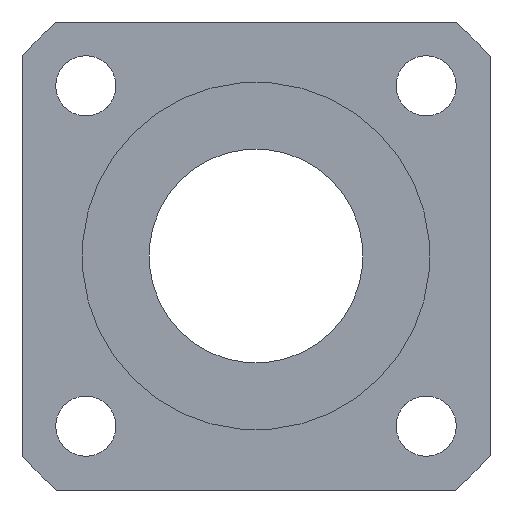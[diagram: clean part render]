
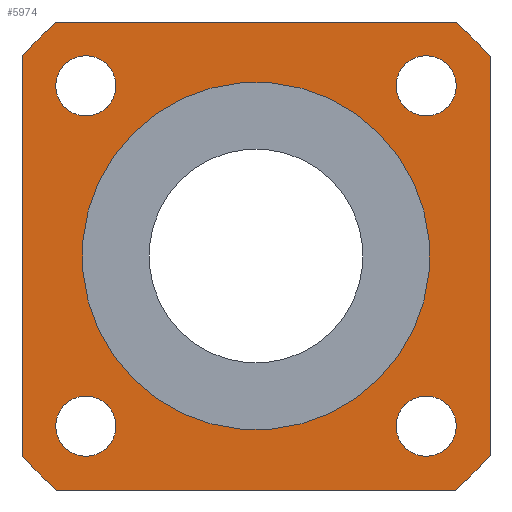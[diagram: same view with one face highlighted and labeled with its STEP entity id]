
A CAD part, left-side view. The second image highlights one B-rep face of the part: STEP entity #5974.
In plain terms, the highlighted planar face has unit normal (-1, 0, 0).
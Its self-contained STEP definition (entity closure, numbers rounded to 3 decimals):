
#108=CIRCLE('',#6337,23.);
#109=CIRCLE('',#6339,23.);
#110=CIRCLE('',#6341,23.);
#120=CIRCLE('',#6356,13.);
#122=CIRCLE('',#6361,23.);
#123=CIRCLE('',#6362,2.25);
#124=CIRCLE('',#6363,2.25);
#125=CIRCLE('',#6364,2.25);
#126=CIRCLE('',#6365,2.25);
#545=ORIENTED_EDGE('',*,*,#2267,.T.);
#546=ORIENTED_EDGE('',*,*,#2250,.F.);
#547=ORIENTED_EDGE('',*,*,#2268,.T.);
#548=ORIENTED_EDGE('',*,*,#2253,.F.);
#549=ORIENTED_EDGE('',*,*,#2269,.T.);
#550=ORIENTED_EDGE('',*,*,#2270,.F.);
#551=ORIENTED_EDGE('',*,*,#2271,.T.);
#552=ORIENTED_EDGE('',*,*,#2248,.F.);
#553=ORIENTED_EDGE('',*,*,#2272,.T.);
#554=ORIENTED_EDGE('',*,*,#2273,.T.);
#555=ORIENTED_EDGE('',*,*,#2274,.T.);
#556=ORIENTED_EDGE('',*,*,#2275,.T.);
#557=ORIENTED_EDGE('',*,*,#2265,.T.);
#2248=EDGE_CURVE('',#3111,#3112,#108,.T.);
#2250=EDGE_CURVE('',#3113,#3114,#109,.T.);
#2253=EDGE_CURVE('',#3115,#3116,#110,.T.);
#2265=EDGE_CURVE('',#3126,#3126,#120,.T.);
#2267=EDGE_CURVE('',#3111,#3114,#3641,.T.);
#2268=EDGE_CURVE('',#3113,#3116,#3642,.T.);
#2269=EDGE_CURVE('',#3115,#3128,#3643,.T.);
#2270=EDGE_CURVE('',#3129,#3128,#122,.T.);
#2271=EDGE_CURVE('',#3129,#3112,#3644,.T.);
#2272=EDGE_CURVE('',#3130,#3130,#123,.T.);
#2273=EDGE_CURVE('',#3131,#3131,#124,.T.);
#2274=EDGE_CURVE('',#3132,#3132,#125,.T.);
#2275=EDGE_CURVE('',#3133,#3133,#126,.T.);
#3111=VERTEX_POINT('',#9382);
#3112=VERTEX_POINT('',#9384);
#3113=VERTEX_POINT('',#9388);
#3114=VERTEX_POINT('',#9389);
#3115=VERTEX_POINT('',#9394);
#3116=VERTEX_POINT('',#9395);
#3126=VERTEX_POINT('',#9422);
#3128=VERTEX_POINT('',#9431);
#3129=VERTEX_POINT('',#9433);
#3130=VERTEX_POINT('',#9436);
#3131=VERTEX_POINT('',#9438);
#3132=VERTEX_POINT('',#9440);
#3133=VERTEX_POINT('',#9442);
#3641=LINE('',#9428,#4353);
#3642=LINE('',#9429,#4354);
#3643=LINE('',#9430,#4355);
#3644=LINE('',#9434,#4356);
#4353=VECTOR('',#6940,1000.);
#4354=VECTOR('',#6941,1000.);
#4355=VECTOR('',#6942,1000.);
#4356=VECTOR('',#6945,1000.);
#4910=EDGE_LOOP('',(#545,#546,#547,#548,#549,#550,#551,#552));
#4911=EDGE_LOOP('',(#553));
#4912=EDGE_LOOP('',(#554));
#4913=EDGE_LOOP('',(#555));
#4914=EDGE_LOOP('',(#556));
#4915=EDGE_LOOP('',(#557));
#5332=FACE_BOUND('',#4910,.T.);
#5333=FACE_BOUND('',#4911,.T.);
#5334=FACE_BOUND('',#4912,.T.);
#5335=FACE_BOUND('',#4913,.T.);
#5336=FACE_BOUND('',#4914,.T.);
#5337=FACE_BOUND('',#4915,.T.);
#5698=PLANE('',#6360);
#5974=ADVANCED_FACE('',(#5332,#5333,#5334,#5335,#5336,#5337),#5698,.F.);
#6337=AXIS2_PLACEMENT_3D('',#9383,#6887,#6888);
#6339=AXIS2_PLACEMENT_3D('',#9387,#6892,#6893);
#6341=AXIS2_PLACEMENT_3D('',#9393,#6898,#6899);
#6356=AXIS2_PLACEMENT_3D('',#9421,#6930,#6931);
#6360=AXIS2_PLACEMENT_3D('',#9427,#6938,#6939);
#6361=AXIS2_PLACEMENT_3D('',#9432,#6943,#6944);
#6362=AXIS2_PLACEMENT_3D('',#9435,#6946,#6947);
#6363=AXIS2_PLACEMENT_3D('',#9437,#6948,#6949);
#6364=AXIS2_PLACEMENT_3D('',#9439,#6950,#6951);
#6365=AXIS2_PLACEMENT_3D('',#9441,#6952,#6953);
#6887=DIRECTION('',(1.,0.,0.));
#6888=DIRECTION('',(0.,0.707,-0.707));
#6892=DIRECTION('',(1.,0.,0.));
#6893=DIRECTION('',(0.,0.707,-0.707));
#6898=DIRECTION('',(1.,0.,0.));
#6899=DIRECTION('',(0.,0.707,-0.707));
#6930=DIRECTION('',(1.,0.,0.));
#6931=DIRECTION('',(0.,0.707,-0.707));
#6938=DIRECTION('',(1.,0.,0.));
#6939=DIRECTION('',(0.,0.707,-0.707));
#6940=DIRECTION('',(0.,1.,0.));
#6941=DIRECTION('',(0.,0.,-1.));
#6942=DIRECTION('',(0.,-1.,0.));
#6943=DIRECTION('',(1.,0.,0.));
#6944=DIRECTION('',(0.,0.707,-0.707));
#6945=DIRECTION('',(0.,0.,1.));
#6946=DIRECTION('',(1.,0.,0.));
#6947=DIRECTION('',(0.,0.707,-0.707));
#6948=DIRECTION('',(1.,0.,0.));
#6949=DIRECTION('',(0.,0.707,-0.707));
#6950=DIRECTION('',(1.,0.,0.));
#6951=DIRECTION('',(0.,0.707,-0.707));
#6952=DIRECTION('',(1.,0.,0.));
#6953=DIRECTION('',(0.,0.707,-0.707));
#9382=CARTESIAN_POINT('',(28.,-14.925,17.5));
#9383=CARTESIAN_POINT('',(28.,0.,0.));
#9384=CARTESIAN_POINT('',(28.,-17.5,14.925));
#9387=CARTESIAN_POINT('',(28.,0.,0.));
#9388=CARTESIAN_POINT('',(28.,17.5,14.925));
#9389=CARTESIAN_POINT('',(28.,14.925,17.5));
#9393=CARTESIAN_POINT('',(28.,0.,0.));
#9394=CARTESIAN_POINT('',(28.,14.925,-17.5));
#9395=CARTESIAN_POINT('',(28.,17.5,-14.925));
#9421=CARTESIAN_POINT('',(28.,0.,0.));
#9422=CARTESIAN_POINT('',(28.,9.192,-9.192));
#9427=CARTESIAN_POINT('',(28.,0.,0.));
#9428=CARTESIAN_POINT('',(28.,17.5,17.5));
#9429=CARTESIAN_POINT('',(28.,17.5,-17.5));
#9430=CARTESIAN_POINT('',(28.,-17.5,-17.5));
#9431=CARTESIAN_POINT('',(28.,-14.925,-17.5));
#9432=CARTESIAN_POINT('',(28.,0.,0.));
#9433=CARTESIAN_POINT('',(28.,-17.5,-14.925));
#9434=CARTESIAN_POINT('',(28.,-17.5,17.5));
#9435=CARTESIAN_POINT('',(28.,12.728,-12.728));
#9436=CARTESIAN_POINT('',(28.,14.319,-14.319));
#9437=CARTESIAN_POINT('',(28.,-12.728,-12.728));
#9438=CARTESIAN_POINT('',(28.,-11.137,-14.319));
#9439=CARTESIAN_POINT('',(28.,-12.728,12.728));
#9440=CARTESIAN_POINT('',(28.,-11.137,11.137));
#9441=CARTESIAN_POINT('',(28.,12.728,12.728));
#9442=CARTESIAN_POINT('',(28.,14.319,11.137));
